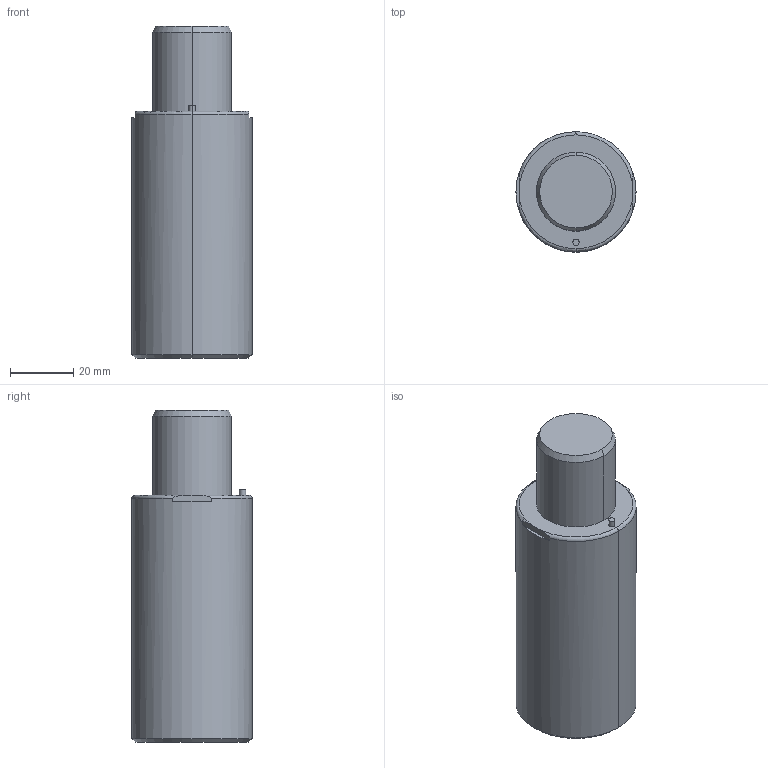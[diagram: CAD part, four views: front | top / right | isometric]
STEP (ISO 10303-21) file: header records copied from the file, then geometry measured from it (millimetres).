
FILE_DESCRIPTION(/* description */ (''),/* implementation_level */ '2;1');
FILE_NAME(/* name */ '3d_gsx38-25_03989_r00.stp',/* time_stamp */ '2011-01-10T14:15:13+09:00',/* author */ ('MISUMI'),/* organization */ (''),/* preprocessor_version */ 'ST-DEVELOPER v11',/* originating_system */ 'UGS - NX 5.0',/* authorisation */ '');
FILE_SCHEMA (('CONFIG_CONTROL_DESIGN'));
Length unit declared in the file: millimetre
Products named in the file (1): 3d_gsx38-25_03989_r00
Bounding box: 38 x 38 x 105 mm (x, y, z)
Volume: 99651.5 mm3; surface area: 14821.2 mm2
Topology: 1 solids, 1 shells, 59 faces, 128 edges, 76 vertices
Faces by surface type: cylinder 28, plane 15, cone 12, torus 4
Entity records: 1718 total; most frequent: CARTESIAN_POINT 328, DIRECTION 306, ORIENTED_EDGE 240, AXIS2_PLACEMENT_3D 130, EDGE_CURVE 120, VERTEX_POINT 76, EDGE_LOOP 72, CIRCLE 70
